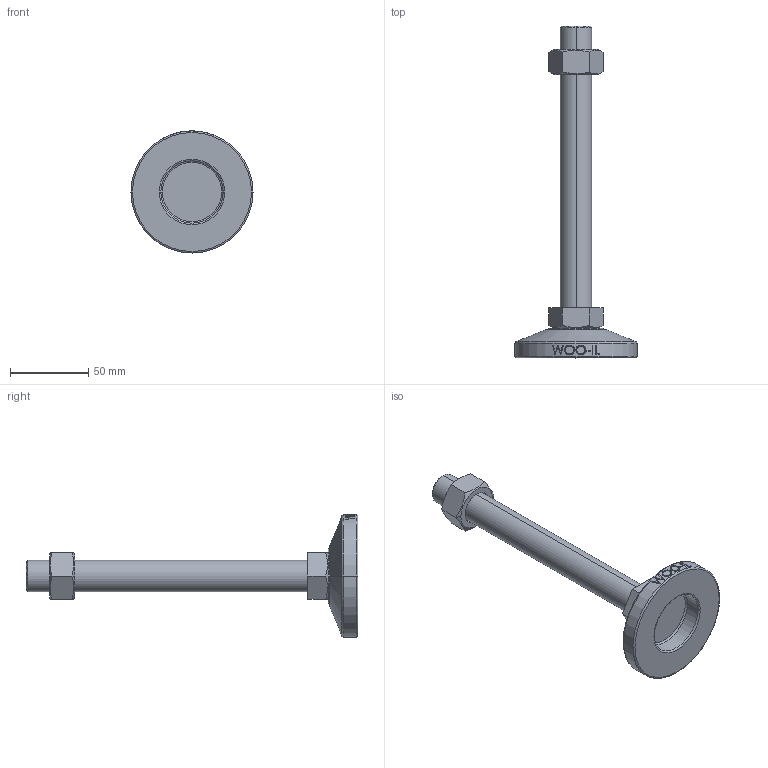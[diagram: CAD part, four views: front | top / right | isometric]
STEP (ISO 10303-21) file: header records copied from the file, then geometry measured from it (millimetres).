
FILE_DESCRIPTION (( 'STEP AP214' ), '1' );
FILE_NAME ('MFT78-M20-180.step', '2021-03-29T04:44:36', ( '' ), ( '' ), 'SwSTEP 2.0', 'SolidWorks 2019', '' );
FILE_SCHEMA (( 'AUTOMOTIVE_DESIGN' ));
Length unit declared in the file: millimetre
Products named in the file (2): MFT78-M20-180
Bounding box: 78 x 212 x 78 mm (x, y, z)
Volume: 130525.2 mm3; surface area: 31163.1 mm2
Topology: 3 solids, 3 shells, 106 faces, 243 edges, 154 vertices
Faces by surface type: plane 48, cylinder 18, bspline 16, cone 14, torus 10
Entity records: 4518 total; most frequent: CARTESIAN_POINT 2175, ORIENTED_EDGE 486, DIRECTION 439, EDGE_CURVE 243, AXIS2_PLACEMENT_3D 170, VERTEX_POINT 154, EDGE_LOOP 119, FACE_OUTER_BOUND 106
